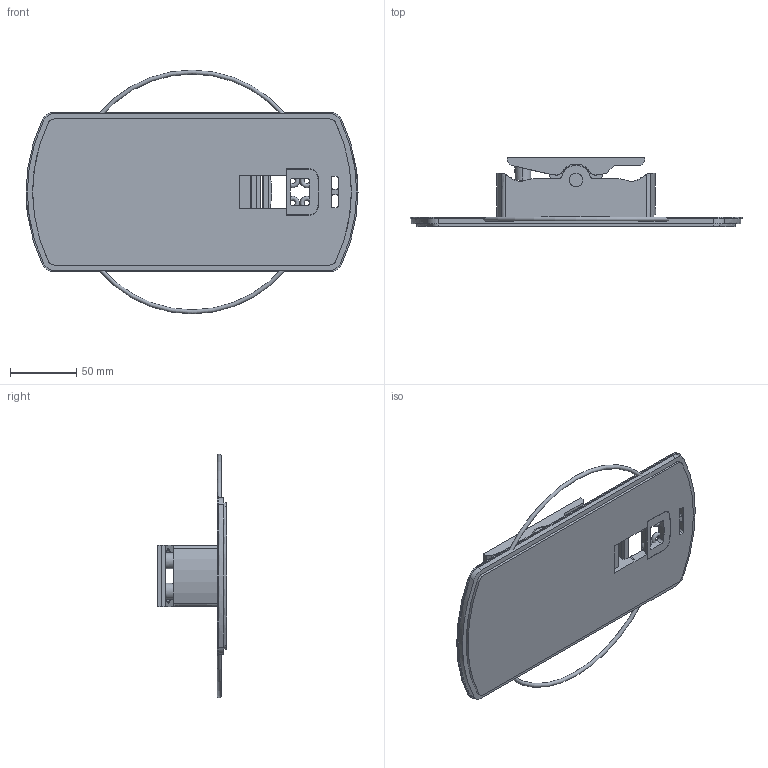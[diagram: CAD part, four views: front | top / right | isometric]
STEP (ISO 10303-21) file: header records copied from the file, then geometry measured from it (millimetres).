
FILE_DESCRIPTION((''),'2;1');
FILE_NAME('BEOSOUND_EDGE_SW','2018-05-23T',('VHK'),('Bang_&_Olufsen_A/S'),'CREO PARAMETRIC BY PTC INC, 2016260','CREO PARAMETRIC BY PTC INC, 2016260','');
FILE_SCHEMA(('CONFIG_CONTROL_DESIGN'));
Length unit declared in the file: millimetre
Products named in the file (1): BEOSOUND_EDGE_SW
Bounding box: 250 x 52 x 183.6 mm (x, y, z)
Surface area: 116212.5 mm2 (no closed solid volume)
Topology: 0 solids, 0 shells, 341 faces, 1925 edges, 1920 vertices
Faces by surface type: bspline 336, torus 5
Entity records: 36878 total; most frequent: CARTESIAN_POINT 19525, DIRECTION 2642, TRIMMED_CURVE 2323, VECTOR 2014, LINE 2014, DEFINITIONAL_REPRESENTATION 1915, PCURVE 1915, COMPOSITE_CURVE_SEGMENT 1915
